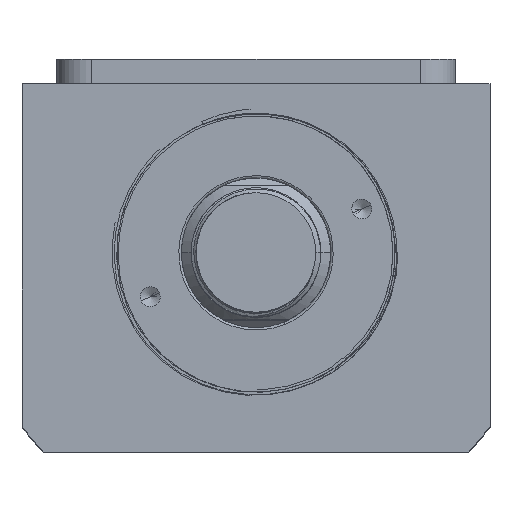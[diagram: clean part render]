
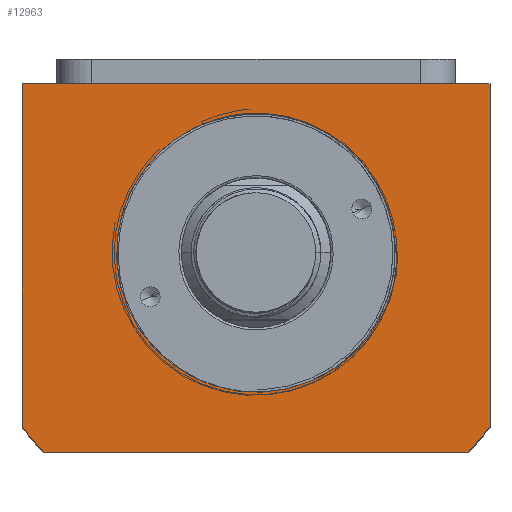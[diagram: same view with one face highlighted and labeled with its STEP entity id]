
A CAD part, top view. The second image highlights one B-rep face of the part: STEP entity #12963.
In plain terms, the highlighted planar face has unit normal (0, 0, 1).
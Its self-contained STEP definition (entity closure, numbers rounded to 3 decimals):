
#279 = AXIS2_PLACEMENT_3D ( 'NONE', #5269, #3941, #5461 ) ;
#312 = EDGE_CURVE ( 'NONE', #18331, #8429, #17098, .T. ) ;
#668 = CARTESIAN_POINT ( 'NONE',  ( 13.459, -24.624, 55. ) ) ;
#784 = CARTESIAN_POINT ( 'NONE',  ( -47., -34.832, 55. ) ) ;
#788 = CARTESIAN_POINT ( 'NONE',  ( 10.232, -26.064, 55. ) ) ;
#828 = LINE ( 'NONE', #5489, #12352 ) ;
#1572 = ORIENTED_EDGE ( 'NONE', *, *, #17758, .T. ) ;
#1739 = VERTEX_POINT ( 'NONE', #2362 ) ;
#1843 = EDGE_CURVE ( 'NONE', #16174, #5689, #9998, .T. ) ;
#2236 = DIRECTION ( 'NONE',  ( 1., 0., 0. ) ) ;
#2355 = CARTESIAN_POINT ( 'NONE',  ( 0., 0., 55. ) ) ;
#2362 = CARTESIAN_POINT ( 'NONE',  ( 28.495, 0., 55. ) ) ;
#2423 = EDGE_CURVE ( 'NONE', #5689, #3733, #12369, .T. ) ;
#2470 = VECTOR ( 'NONE', #6168, 1000. ) ;
#2796 = CARTESIAN_POINT ( 'NONE',  ( 47., 34., 55. ) ) ;
#3072 = DIRECTION ( 'NONE',  ( -1., 0., 0. ) ) ;
#3441 = ORIENTED_EDGE ( 'NONE', *, *, #4461, .T. ) ;
#3474 = CARTESIAN_POINT ( 'NONE',  ( 28.495, 0., 55. ) ) ;
#3599 = EDGE_LOOP ( 'NONE', ( #8498, #16154, #1572, #6369, #3441, #7771 ) ) ;
#3733 = VERTEX_POINT ( 'NONE', #784 ) ;
#3753 = VERTEX_POINT ( 'NONE', #9795 ) ;
#3796 = CARTESIAN_POINT ( 'NONE',  ( 19.714, -20.129, 55. ) ) ;
#3941 = DIRECTION ( 'NONE',  ( 0., 0., 1. ) ) ;
#4082 = DIRECTION ( 'NONE',  ( 0., 1., 0. ) ) ;
#4447 = PLANE ( 'NONE',  #17363 ) ;
#4461 = EDGE_CURVE ( 'NONE', #8429, #14997, #17503, .T. ) ;
#4611 = VECTOR ( 'NONE', #3072, 1000. ) ;
#4636 = EDGE_CURVE ( 'NONE', #14997, #16174, #828, .T. ) ;
#5269 = CARTESIAN_POINT ( 'NONE',  ( 0., 0., 55. ) ) ;
#5319 = CARTESIAN_POINT ( 'NONE',  ( 11.542, -25.544, 55. ) ) ;
#5389 = CARTESIAN_POINT ( 'NONE',  ( 18.129, -21.529, 55. ) ) ;
#5461 = DIRECTION ( 'NONE',  ( 1., 0., 0. ) ) ;
#5465 = DIRECTION ( 'NONE',  ( 1., 0., 0. ) ) ;
#5489 = CARTESIAN_POINT ( 'NONE',  ( 47., 34., 55. ) ) ;
#5689 = VERTEX_POINT ( 'NONE', #16931 ) ;
#6168 = DIRECTION ( 'NONE',  ( 0., -1., 0. ) ) ;
#6369 = ORIENTED_EDGE ( 'NONE', *, *, #312, .T. ) ;
#6427 = ORIENTED_EDGE ( 'NONE', *, *, #9170, .T. ) ;
#6450 = EDGE_CURVE ( 'NONE', #1739, #6634, #6756, .T. ) ;
#6634 = VERTEX_POINT ( 'NONE', #16037 ) ;
#6701 = CARTESIAN_POINT ( 'NONE',  ( 15.3, -23.593, 55. ) ) ;
#6756 = B_SPLINE_CURVE_WITH_KNOTS ( 'NONE', 3,
 ( #3474, #18648, #9736, #15789, #12837, #9800, #17225, #18914, #9672, #18849, #11302, #9921, #11246, #12770, #3796, #14349, #5389, #12893, #6701, #668, #17280, #5319, #15854, #788 ),
 .UNSPECIFIED., .F., .F.,
 ( 4, 2, 2, 2, 2, 2, 2, 2, 2, 2, 2, 4 ),
 ( 0., 0.002, 0.004, 0.009, 0.013, 0.017, 0.021, 0.023, 0.026, 0.03, 0.032, 0.034 ),
 .UNSPECIFIED. ) ;
#6826 = DIRECTION ( 'NONE',  ( 0., 0., -1. ) ) ;
#7771 = ORIENTED_EDGE ( 'NONE', *, *, #4636, .T. ) ;
#7909 = CARTESIAN_POINT ( 'NONE',  ( 47., -34.832, 55. ) ) ;
#8092 = CARTESIAN_POINT ( 'NONE',  ( 42.688, -40., 55. ) ) ;
#8181 = CARTESIAN_POINT ( 'NONE',  ( 42.688, -40., 55. ) ) ;
#8429 = VERTEX_POINT ( 'NONE', #8181 ) ;
#8498 = ORIENTED_EDGE ( 'NONE', *, *, #1843, .T. ) ;
#8897 = EDGE_CURVE ( 'NONE', #1739, #3753, #14747, .T. ) ;
#9170 = EDGE_CURVE ( 'NONE', #6634, #3753, #15710, .T. ) ;
#9340 = DIRECTION ( 'NONE',  ( -1., 0., 0. ) ) ;
#9672 = CARTESIAN_POINT ( 'NONE',  ( 26.163, -10.961, 55. ) ) ;
#9736 = CARTESIAN_POINT ( 'NONE',  ( 28.449, -1.419, 55. ) ) ;
#9795 = CARTESIAN_POINT ( 'NONE',  ( 28., 0., 55. ) ) ;
#9800 = CARTESIAN_POINT ( 'NONE',  ( 27.887, -5.628, 55. ) ) ;
#9921 = CARTESIAN_POINT ( 'NONE',  ( 22.571, -17.007, 55. ) ) ;
#9998 = LINE ( 'NONE', #16690, #12854 ) ;
#10246 = DIRECTION ( 'NONE',  ( 1., 0., 0. ) ) ;
#10708 = EDGE_LOOP ( 'NONE', ( #18862, #13876, #6427 ) ) ;
#11246 = CARTESIAN_POINT ( 'NONE',  ( 21.684, -18.094, 55. ) ) ;
#11302 = CARTESIAN_POINT ( 'NONE',  ( 24.178, -14.712, 55. ) ) ;
#11887 = CARTESIAN_POINT ( 'NONE',  ( 0., 0., 55. ) ) ;
#12119 = AXIS2_PLACEMENT_3D ( 'NONE', #18869, #19129, #5465 ) ;
#12352 = VECTOR ( 'NONE', #4082, 1000. ) ;
#12369 = LINE ( 'NONE', #15197, #2470 ) ;
#12569 = CARTESIAN_POINT ( 'NONE',  ( -42.688, -40., 55. ) ) ;
#12770 = CARTESIAN_POINT ( 'NONE',  ( 20.224, -19.631, 55. ) ) ;
#12837 = CARTESIAN_POINT ( 'NONE',  ( 28.233, -3.538, 55. ) ) ;
#12854 = VECTOR ( 'NONE', #9340, 1000. ) ;
#12893 = CARTESIAN_POINT ( 'NONE',  ( 16.467, -22.819, 55. ) ) ;
#12963 = ADVANCED_FACE ( 'NONE', ( #15561, #13454 ), #4447, .T. ) ;
#13335 = AXIS2_PLACEMENT_3D ( 'NONE', #2355, #6826, #2236 ) ;
#13454 = FACE_OUTER_BOUND ( 'NONE', #3599, .T. ) ;
#13876 = ORIENTED_EDGE ( 'NONE', *, *, #6450, .T. ) ;
#14149 = DIRECTION ( 'NONE',  ( 1., 0., 0. ) ) ;
#14349 = CARTESIAN_POINT ( 'NONE',  ( 18.667, -21.077, 55. ) ) ;
#14747 = LINE ( 'NONE', #17999, #4611 ) ;
#14864 = DIRECTION ( 'NONE',  ( 0., 0., 1. ) ) ;
#14997 = VERTEX_POINT ( 'NONE', #7909 ) ;
#15197 = CARTESIAN_POINT ( 'NONE',  ( -47., -34.832, 55. ) ) ;
#15561 = FACE_BOUND ( 'NONE', #10708, .T. ) ;
#15710 = CIRCLE ( 'NONE', #13335, 28. ) ;
#15789 = CARTESIAN_POINT ( 'NONE',  ( 28.323, -2.832, 55. ) ) ;
#15854 = CARTESIAN_POINT ( 'NONE',  ( 10.89, -25.816, 55. ) ) ;
#16037 = CARTESIAN_POINT ( 'NONE',  ( 10.232, -26.064, 55. ) ) ;
#16154 = ORIENTED_EDGE ( 'NONE', *, *, #2423, .T. ) ;
#16174 = VERTEX_POINT ( 'NONE', #2796 ) ;
#16397 = CIRCLE ( 'NONE', #12119, 58.5 ) ;
#16690 = CARTESIAN_POINT ( 'NONE',  ( -47., 34., 55. ) ) ;
#16931 = CARTESIAN_POINT ( 'NONE',  ( -47., 34., 55. ) ) ;
#17098 = LINE ( 'NONE', #8092, #18248 ) ;
#17225 = CARTESIAN_POINT ( 'NONE',  ( 27.555, -6.99, 55. ) ) ;
#17280 = CARTESIAN_POINT ( 'NONE',  ( 12.831, -24.945, 55. ) ) ;
#17363 = AXIS2_PLACEMENT_3D ( 'NONE', #11887, #14864, #10246 ) ;
#17503 = CIRCLE ( 'NONE', #279, 58.5 ) ;
#17758 = EDGE_CURVE ( 'NONE', #3733, #18331, #16397, .T. ) ;
#17999 = CARTESIAN_POINT ( 'NONE',  ( 0., 0., 55. ) ) ;
#18248 = VECTOR ( 'NONE', #14149, 1000. ) ;
#18331 = VERTEX_POINT ( 'NONE', #12569 ) ;
#18648 = CARTESIAN_POINT ( 'NONE',  ( 28.485, -0.71, 55. ) ) ;
#18849 = CARTESIAN_POINT ( 'NONE',  ( 24.898, -13.504, 55. ) ) ;
#18862 = ORIENTED_EDGE ( 'NONE', *, *, #8897, .F. ) ;
#18869 = CARTESIAN_POINT ( 'NONE',  ( 0., 0., 55. ) ) ;
#18914 = CARTESIAN_POINT ( 'NONE',  ( 26.694, -9.657, 55. ) ) ;
#19129 = DIRECTION ( 'NONE',  ( 0., 0., 1. ) ) ;
